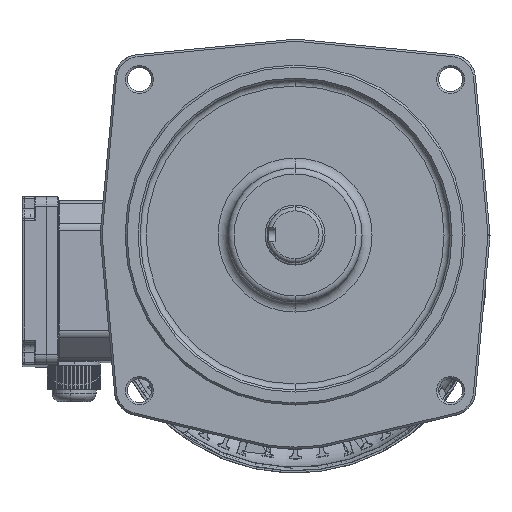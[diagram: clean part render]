
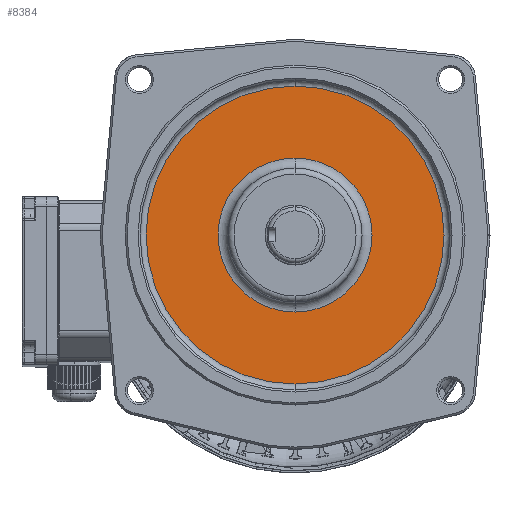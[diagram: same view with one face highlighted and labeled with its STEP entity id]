
A CAD part, top view. The second image highlights one B-rep face of the part: STEP entity #8384.
In plain terms, the highlighted planar face has unit normal (0, 0, 1).
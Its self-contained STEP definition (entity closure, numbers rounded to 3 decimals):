
#2289 = VERTEX_POINT ( 'NONE', #30065 ) ;
#3929 = AXIS2_PLACEMENT_3D ( 'NONE', #91177, #20864, #52155 ) ;
#4218 = CIRCLE ( 'NONE', #61550, 38.5 ) ;
#5323 = PLANE ( 'NONE',  #36873 ) ;
#6508 = EDGE_CURVE ( 'NONE', #77326, #9684, #9780, .T. ) ;
#8384 = ADVANCED_FACE ( 'NONE', ( #44269, #75618 ), #5323, .T. ) ;
#9684 = VERTEX_POINT ( 'NONE', #93966 ) ;
#9780 = CIRCLE ( 'NONE', #67102, 38.5 ) ;
#13725 = CARTESIAN_POINT ( 'NONE',  ( 0., 61.5, 267.5 ) ) ;
#15876 = DIRECTION ( 'NONE',  ( 0., 0., 1. ) ) ;
#17191 = ORIENTED_EDGE ( 'NONE', *, *, #75077, .F. ) ;
#18221 = EDGE_CURVE ( 'NONE', #46571, #2289, #32536, .T. ) ;
#18837 = CARTESIAN_POINT ( 'NONE',  ( 0., 97.5, 267.5 ) ) ;
#20864 = DIRECTION ( 'NONE',  ( 0., 0., -1. ) ) ;
#24897 = DIRECTION ( 'NONE',  ( 0., 0., 1. ) ) ;
#30065 = CARTESIAN_POINT ( 'NONE',  ( 0., -51.5, 267.5 ) ) ;
#32536 = CIRCLE ( 'NONE', #89947, 74.5 ) ;
#33214 = CARTESIAN_POINT ( 'NONE',  ( 0., 23., 267.5 ) ) ;
#33609 = ORIENTED_EDGE ( 'NONE', *, *, #6508, .F. ) ;
#34326 = EDGE_CURVE ( 'NONE', #9684, #77326, #4218, .T. ) ;
#36566 = CARTESIAN_POINT ( 'NONE',  ( 0., 23., 267.5 ) ) ;
#36873 = AXIS2_PLACEMENT_3D ( 'NONE', #36566, #67879, #99198 ) ;
#44269 = FACE_OUTER_BOUND ( 'NONE', #95078, .T. ) ;
#46571 = VERTEX_POINT ( 'NONE', #18837 ) ;
#47144 = DIRECTION ( 'NONE',  ( -1., 0., 0. ) ) ;
#48137 = CIRCLE ( 'NONE', #3929, 74.5 ) ;
#49598 = EDGE_LOOP ( 'NONE', ( #33609, #75922 ) ) ;
#52155 = DIRECTION ( 'NONE',  ( -1., 0., 0. ) ) ;
#56202 = DIRECTION ( 'NONE',  ( -1., 0., 0. ) ) ;
#61550 = AXIS2_PLACEMENT_3D ( 'NONE', #86208, #15876, #47144 ) ;
#64526 = DIRECTION ( 'NONE',  ( 0., 0., -1. ) ) ;
#67102 = AXIS2_PLACEMENT_3D ( 'NONE', #95249, #24897, #56202 ) ;
#67879 = DIRECTION ( 'NONE',  ( 0., 0., 1. ) ) ;
#75077 = EDGE_CURVE ( 'NONE', #2289, #46571, #48137, .T. ) ;
#75618 = FACE_BOUND ( 'NONE', #49598, .T. ) ;
#75922 = ORIENTED_EDGE ( 'NONE', *, *, #34326, .F. ) ;
#77326 = VERTEX_POINT ( 'NONE', #13725 ) ;
#77577 = ORIENTED_EDGE ( 'NONE', *, *, #18221, .F. ) ;
#86208 = CARTESIAN_POINT ( 'NONE',  ( 0., 23., 267.5 ) ) ;
#89947 = AXIS2_PLACEMENT_3D ( 'NONE', #33214, #64526, #95841 ) ;
#91177 = CARTESIAN_POINT ( 'NONE',  ( 0., 23., 267.5 ) ) ;
#93966 = CARTESIAN_POINT ( 'NONE',  ( 0., -15.5, 267.5 ) ) ;
#95078 = EDGE_LOOP ( 'NONE', ( #77577, #17191 ) ) ;
#95249 = CARTESIAN_POINT ( 'NONE',  ( 0., 23., 267.5 ) ) ;
#95841 = DIRECTION ( 'NONE',  ( -1., 0., 0. ) ) ;
#99198 = DIRECTION ( 'NONE',  ( 1., 0., 0. ) ) ;
